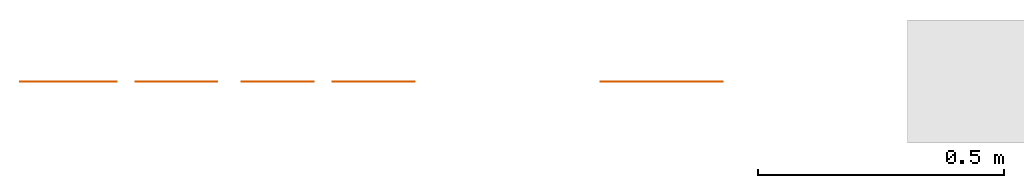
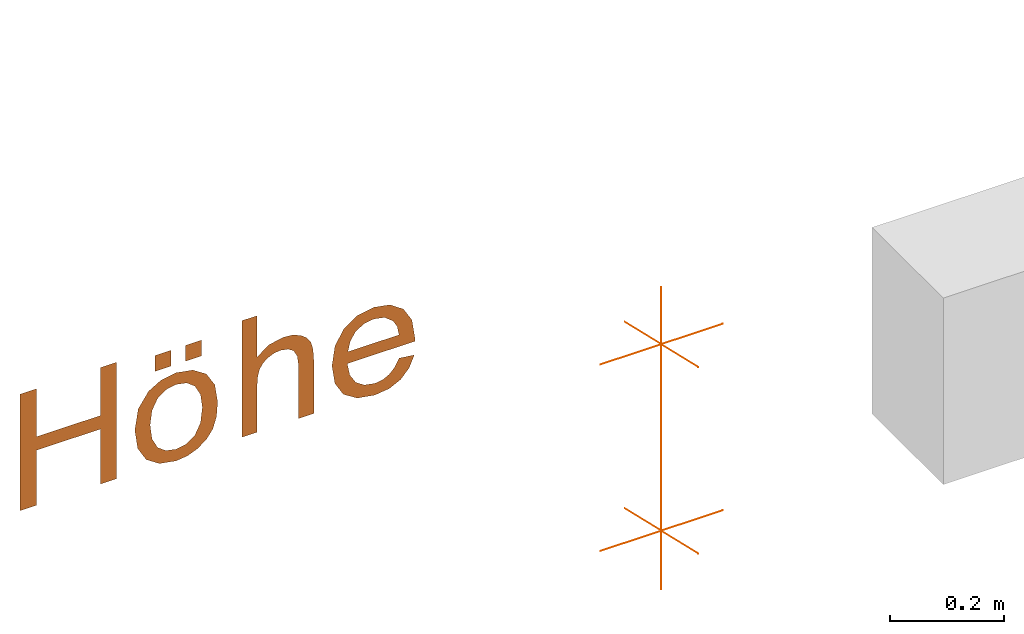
# One storey, part 2 of 2: 2 proxies, 2 elements without a shape of their own.
"""IFC4 building model written with IfcOpenShell, lengths in metres."""

from ifc_helpers import new_model, entity, si_unit, converted_unit, derived_unit, frame, origin, origin_with_axes, place, context, subcontext, project, spatial, open_shell, surface_model, source, transform, mapped, element, aggregate, save


model = new_model("IFC4")

# Units and contexts
model_context = context("Model", 3, precision=1e-05, world=origin())
body_context = subcontext(model_context, "Body", "Model", "MODEL_VIEW")
ifc_project = project(units=[si_unit("LENGTHUNIT", "METRE"), si_unit("AREAUNIT", "SQUARE_METRE"), si_unit("VOLUMEUNIT", "CUBIC_METRE"), si_unit("MASSUNIT", "GRAM", prefix="KILO"), converted_unit("PLANEANGLEUNIT", "DEGREE", entity("IfcPlaneAngleMeasure", 0.0174532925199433), si_unit("PLANEANGLEUNIT", "RADIAN"), dimensions=[0, 0, 0, 0, 0, 0, 0]), derived_unit("THERMALTRANSMITTANCEUNIT", [(si_unit("POWERUNIT", "WATT"), 1), (si_unit("THERMODYNAMICTEMPERATUREUNIT", "KELVIN"), -1), (si_unit("LENGTHUNIT", "METRE"), -2)]), derived_unit("VOLUMETRICFLOWRATEUNIT", [(si_unit("LENGTHUNIT", "METRE"), 3), (converted_unit("TIMEUNIT", "hour", entity("IfcTimeMeasure", 3600.0), si_unit("TIMEUNIT", "SECOND"), dimensions=[0, 0, 1, 0, 0, 0, 0]), -1), (si_unit("LENGTHUNIT", "METRE"), -1)])], contexts=[model_context])

# Site, building, storey
site_placement = place(None, origin())
site = spatial("IfcSite", under=ifc_project, at=site_placement, Name="Liegenschaft", CompositionType="ELEMENT")
building_placement = place(site_placement, origin())
building = spatial("IfcBuilding", under=site, at=building_placement, Name="Gebäude", CompositionType="ELEMENT")
storey_placement = place(building_placement, origin())
storey = spatial("IfcBuildingStorey", under=building, at=storey_placement, Name="Geschoss 02", CompositionType="ELEMENT", Elevation=0.0)

# Assembly, proxy
assembly_1_placement = place(storey_placement, origin())
assembly_1 = element("IfcElementAssembly", 1, at=assembly_1_placement, inside=storey, Name="SpatialDim_Group", PredefinedType="NOTDEFINED")
shared_shape_1 = source(origin_with_axes(), body_context, "Axis", "Curve3D", [
    entity("IfcPolyline", [entity("IfcCartesianPoint", [0.05, 0.05, 0.0]), entity("IfcCartesianPoint", [0.2, 0.2, 0.0])]),
    entity("IfcPolyline", [entity("IfcCartesianPoint", [0.125, 0.0, 0.0]), entity("IfcCartesianPoint", [0.125, 0.25, 0.0])]),
    entity("IfcPolyline", [entity("IfcCartesianPoint", [0.45, 0.05, 0.0]), entity("IfcCartesianPoint", [0.6, 0.2, 0.0])]),
    entity("IfcPolyline", [entity("IfcCartesianPoint", [0.525, 0.0, 0.0]), entity("IfcCartesianPoint", [0.525, 0.25, 0.0])]),
    entity("IfcPolyline", [entity("IfcCartesianPoint", [0.0, 0.125, 0.0]), entity("IfcCartesianPoint", [0.65, 0.125, 0.0])]),
])
proxy_1_placement = place(assembly_1_placement, frame((89.6703071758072, -0.129086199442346, 0.525), z_axis=(1.22464679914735e-16, -1.0, 1.49975978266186e-32), x_axis=(1.22464679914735e-16, 0.0, -1.0)))
proxy_1 = element("IfcBuildingElementProxy", 2, at=proxy_1_placement, Name="macro", context=body_context, shape_type="MappedRepresentation", body=[
    mapped(shared_shape_1, transform((0.0, 0.0, 0.0), x_axis=(1.0, 0.0, 0.0), y_axis=(0.0, 1.0, 0.0), z_axis=(0.0, 0.0, 1.0), scale=1.0)),
])
aggregate(assembly_1, [proxy_1])

assembly_2_placement = place(storey_placement, origin())
assembly_2 = element("IfcElementAssembly", 3, at=assembly_2_placement, inside=storey, Name="SpatialDim_Group", PredefinedType="NOTDEFINED")
shared_shape_2 = source(origin_with_axes(), body_context, "Body", "SurfaceModel", [
    surface_model("IfcShellBasedSurfaceModel", [(0.298675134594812, 1.301, 0.0), (0.298675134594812, 1.268, 0.0), (0.416675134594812, 1.268, 0.0), (0.416675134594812, 1.138, 0.0), (0.298675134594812, 1.138, 0.0), (0.298675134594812, 1.105, 0.0), (0.548675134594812, 1.105, 0.0), (0.548675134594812, 1.138, 0.0), (0.445675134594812, 1.138, 0.0), (0.445675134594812, 1.268, 0.0), (0.548675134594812, 1.268, 0.0), (0.548675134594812, 1.301, 0.0)], [open_shell([[[0, 1, 2, 3, 4, 5, 6, 7, 8, 9, 10, 11]]], orient=[[False]])]),
    surface_model("IfcShellBasedSurfaceModel", [(0.501675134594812, 0.964999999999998, 0.0), (0.501675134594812, 0.932999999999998, 0.0), (0.535675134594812, 0.932999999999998, 0.0), (0.535675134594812, 0.964999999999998, 0.0), (0.501675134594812, 1.027, 0.0), (0.501675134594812, 0.994999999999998, 0.0), (0.535675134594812, 0.994999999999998, 0.0), (0.535675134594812, 1.027, 0.0), (0.348550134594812, 1.062125, 0.0), (0.318675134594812, 1.045, 0.0), (0.300675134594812, 1.017875, 0.0), (0.294675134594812, 0.983999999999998, 0.0), (0.297550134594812, 0.960999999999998, 0.0), (0.305675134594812, 0.940999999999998, 0.0), (0.319300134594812, 0.922874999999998, 0.0), (0.336675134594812, 0.909999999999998, 0.0), (0.360800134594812, 0.902374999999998, 0.0), (0.391675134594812, 0.899999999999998, 0.0), (0.430550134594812, 0.905874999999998, 0.0), (0.459675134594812, 0.922999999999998, 0.0), (0.477675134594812, 0.950499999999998, 0.0), (0.483675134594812, 0.983999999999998, 0.0), (0.478550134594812, 1.014625, 0.0), (0.463675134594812, 1.04, 0.0), (0.433050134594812, 1.061125, 0.0), (0.389675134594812, 1.068, 0.0), (0.359050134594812, 1.03325, 0.0), (0.389675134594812, 1.037, 0.0), (0.419800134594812, 1.03325, 0.0), (0.441675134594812, 1.022, 0.0), (0.454675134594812, 1.004875, 0.0), (0.458675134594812, 0.983999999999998, 0.0), (0.454300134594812, 0.962749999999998, 0.0), (0.441675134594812, 0.945999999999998, 0.0), (0.419925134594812, 0.934749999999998, 0.0), (0.390675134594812, 0.930999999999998, 0.0), (0.359175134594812, 0.934749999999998, 0.0), (0.336675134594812, 0.945999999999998, 0.0), (0.323675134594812, 0.963124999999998, 0.0), (0.319675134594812, 0.983999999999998, 0.0), (0.324050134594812, 1.00525, 0.0), (0.336675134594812, 1.022, 0.0)], [open_shell([[[0, 1, 2, 3]], [[4, 5, 6, 7]], [[8, 9, 10, 11, 12, 13, 14, 15, 16, 17, 18, 19, 20, 21, 22, 23, 24, 25], [26, 27, 28, 29, 30, 31, 32, 33, 34, 35, 36, 37, 38, 39, 40, 41]]], orient=[[False], [False], [False, False]])]),
    surface_model("IfcShellBasedSurfaceModel", [(0.298675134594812, 0.850999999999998, 0.0), (0.298675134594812, 0.819999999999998, 0.0), (0.397675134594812, 0.819999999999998, 0.0), (0.417300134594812, 0.818624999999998, 0.0), (0.431675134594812, 0.814999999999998, 0.0), (0.442675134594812, 0.807999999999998, 0.0), (0.450675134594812, 0.797999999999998, 0.0), (0.456050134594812, 0.785874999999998, 0.0), (0.457675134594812, 0.772999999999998, 0.0), (0.454925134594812, 0.757249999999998, 0.0), (0.447675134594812, 0.745999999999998, 0.0), (0.433300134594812, 0.738374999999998, 0.0), (0.413675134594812, 0.735999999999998, 0.0), (0.298675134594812, 0.735999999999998, 0.0), (0.298675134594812, 0.704999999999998, 0.0), (0.413675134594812, 0.704999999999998, 0.0), (0.437050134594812, 0.706499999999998, 0.0), (0.453675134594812, 0.710999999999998, 0.0), (0.466550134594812, 0.719999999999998, 0.0), (0.475675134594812, 0.731999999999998, 0.0), (0.481925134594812, 0.748374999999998, 0.0), (0.483675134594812, 0.766999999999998, 0.0), (0.477675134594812, 0.796499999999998, 0.0), (0.459675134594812, 0.819999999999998, 0.0), (0.548675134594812, 0.819999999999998, 0.0), (0.548675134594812, 0.850999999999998, 0.0)], [open_shell([[[0, 1, 2, 3, 4, 5, 6, 7, 8, 9, 10, 11, 12, 13, 14, 15, 16, 17, 18, 19, 20, 21, 22, 23, 24, 25]]], orient=[[False]])]),
    surface_model("IfcShellBasedSurfaceModel", [(0.356675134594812, 0.531999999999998, 0.0), (0.340050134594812, 0.540874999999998, 0.0), (0.328675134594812, 0.551999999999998, 0.0), (0.321925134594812, 0.565374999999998, 0.0), (0.319675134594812, 0.580999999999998, 0.0), (0.323925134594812, 0.602749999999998, 0.0), (0.335675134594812, 0.619999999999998, 0.0), (0.355300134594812, 0.631874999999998, 0.0), (0.381675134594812, 0.636999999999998, 0.0), (0.381675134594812, 0.499999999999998, 0.0), (0.386425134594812, 0.499999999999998, 0.0), (0.389675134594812, 0.499999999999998, 0.0), (0.429425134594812, 0.505874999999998, 0.0), (0.458675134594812, 0.522999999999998, 0.0), (0.477550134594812, 0.549999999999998, 0.0), (0.483675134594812, 0.582999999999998, 0.0), (0.477175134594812, 0.617624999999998, 0.0), (0.458675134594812, 0.643999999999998, 0.0), (0.428050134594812, 0.661999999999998, 0.0), (0.387675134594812, 0.667999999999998, 0.0), (0.347925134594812, 0.662124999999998, 0.0), (0.318675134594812, 0.644999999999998, 0.0), (0.300675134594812, 0.616749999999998, 0.0), (0.294675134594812, 0.580999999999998, 0.0), (0.298425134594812, 0.551624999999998, 0.0), (0.309675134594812, 0.528999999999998, 0.0), (0.328175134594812, 0.511624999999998, 0.0), (0.352675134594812, 0.500999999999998, 0.0), (0.426300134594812, 0.535749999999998, 0.0), (0.406675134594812, 0.531999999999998, 0.0), (0.406675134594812, 0.635999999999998, 0.0), (0.428300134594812, 0.630624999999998, 0.0), (0.444675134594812, 0.619999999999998, 0.0), (0.455425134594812, 0.602999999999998, 0.0), (0.458675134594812, 0.582999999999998, 0.0), (0.454175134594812, 0.561249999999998, 0.0), (0.440675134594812, 0.543999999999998, 0.0)], [open_shell([[[0, 1, 2, 3, 4, 5, 6, 7, 8, 9, 10, 11, 12, 13, 14, 15, 16, 17, 18, 19, 20, 21, 22, 23, 24, 25, 26, 27], [28, 29, 30, 31, 32, 33, 34, 35, 36]]], orient=[[False, False]])]),
])
proxy_2_placement = place(assembly_2_placement, frame((89.7953071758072, -0.129086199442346, 0.2), z_axis=(-1.22464679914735e-16, -1.0, 1.49975978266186e-32), x_axis=(1.22464679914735e-16, 0.0, 1.0)))
proxy_2 = element("IfcBuildingElementProxy", 4, at=proxy_2_placement, Name="macro", context=body_context, shape_type="MappedRepresentation", body=[
    mapped(shared_shape_2, transform((0.0, 0.0, 0.0), x_axis=(1.0, 0.0, 0.0), y_axis=(0.0, 1.0, 0.0), z_axis=(0.0, 0.0, 1.0), scale=1.0)),
])
aggregate(assembly_2, [proxy_2])

save(model, "model.ifc")
